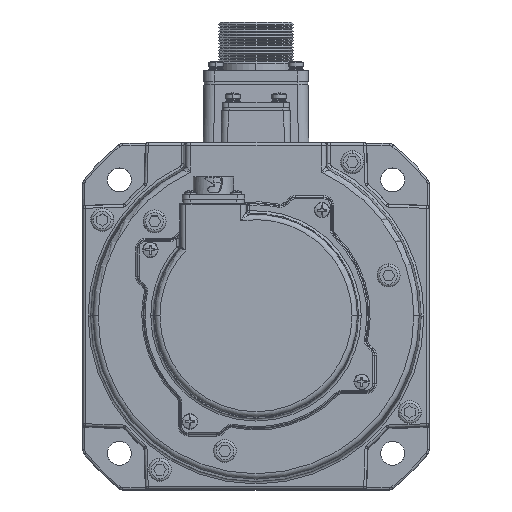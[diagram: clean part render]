
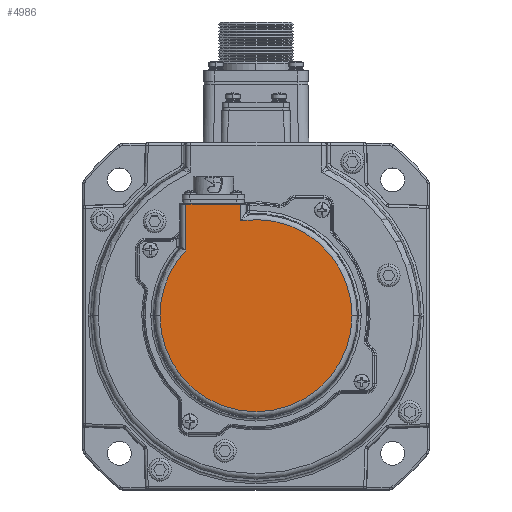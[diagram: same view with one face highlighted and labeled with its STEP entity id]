
A CAD part, top view. The second image highlights one B-rep face of the part: STEP entity #4986.
In plain terms, the highlighted planar face has unit normal (0, 0, 1).
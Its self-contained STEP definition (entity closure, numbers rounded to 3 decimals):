
#508 = EDGE_CURVE ( 'NONE', #105257, #60461, #37306, .T. ) ;
#2265 = DIRECTION ( 'NONE',  ( -1., 0., 0. ) ) ;
#4986 = ADVANCED_FACE ( 'NONE', ( #46255 ), #67852, .T. ) ;
#6481 = EDGE_CURVE ( 'NONE', #108684, #19166, #18332, .T. ) ;
#6916 = ORIENTED_EDGE ( 'NONE', *, *, #99080, .T. ) ;
#9707 = DIRECTION ( 'NONE',  ( -1., 0., 0. ) ) ;
#9770 = LINE ( 'NONE', #25796, #30596 ) ;
#10331 = DIRECTION ( 'NONE',  ( 0., 0., 1. ) ) ;
#10465 = CARTESIAN_POINT ( 'NONE',  ( -8.872, -56.273, -4.537 ) ) ;
#11478 = EDGE_CURVE ( 'NONE', #60461, #108684, #9770, .T. ) ;
#12075 = VECTOR ( 'NONE', #15134, 1000. ) ;
#12520 = ORIENTED_EDGE ( 'NONE', *, *, #41794, .T. ) ;
#12521 = CARTESIAN_POINT ( 'NONE',  ( -8.872, -14.523, -4.537 ) ) ;
#15134 = DIRECTION ( 'NONE',  ( 0., 1., 0. ) ) ;
#17428 = CARTESIAN_POINT ( 'NONE',  ( -44.907, -56.273, -4.537 ) ) ;
#18332 = CIRCLE ( 'NONE', #78939, 36.035 ) ;
#19166 = VERTEX_POINT ( 'NONE', #17428 ) ;
#22300 = ORIENTED_EDGE ( 'NONE', *, *, #11478, .T. ) ;
#23924 = EDGE_CURVE ( 'NONE', #84374, #55001, #81302, .T. ) ;
#25796 = CARTESIAN_POINT ( 'NONE',  ( -35.157, -56.273, -4.537 ) ) ;
#30596 = VECTOR ( 'NONE', #87744, 1000. ) ;
#36036 = CARTESIAN_POINT ( 'NONE',  ( -35.157, -14.523, -4.537 ) ) ;
#37146 = AXIS2_PLACEMENT_3D ( 'NONE', #73982, #60401, #60034 ) ;
#37306 = LINE ( 'NONE', #12521, #81644 ) ;
#38459 = DIRECTION ( 'NONE',  ( 0., 0., 1. ) ) ;
#41794 = EDGE_CURVE ( 'NONE', #19166, #84374, #83031, .T. ) ;
#46255 = FACE_OUTER_BOUND ( 'NONE', #80032, .T. ) ;
#48337 = ORIENTED_EDGE ( 'NONE', *, *, #6481, .T. ) ;
#53804 = CARTESIAN_POINT ( 'NONE',  ( -14.587, -14.523, -4.537 ) ) ;
#55001 = VERTEX_POINT ( 'NONE', #86475 ) ;
#55409 = DIRECTION ( 'NONE',  ( 0., 0., 1. ) ) ;
#56382 = LINE ( 'NONE', #77135, #12075 ) ;
#60034 = DIRECTION ( 'NONE',  ( -1., 0., 0. ) ) ;
#60401 = DIRECTION ( 'NONE',  ( 0., 0., 1. ) ) ;
#60461 = VERTEX_POINT ( 'NONE', #36036 ) ;
#61430 = CARTESIAN_POINT ( 'NONE',  ( -35.157, -31.624, -4.537 ) ) ;
#67852 = PLANE ( 'NONE',  #37146 ) ;
#73524 = ORIENTED_EDGE ( 'NONE', *, *, #508, .T. ) ;
#73982 = CARTESIAN_POINT ( 'NONE',  ( -8.872, -56.273, -4.537 ) ) ;
#77135 = CARTESIAN_POINT ( 'NONE',  ( -14.587, -56.273, -4.537 ) ) ;
#78939 = AXIS2_PLACEMENT_3D ( 'NONE', #10465, #10331, #9707 ) ;
#78971 = CARTESIAN_POINT ( 'NONE',  ( 27.163, -56.273, -4.537 ) ) ;
#80032 = EDGE_LOOP ( 'NONE', ( #6916, #73524, #22300, #48337, #12520, #95719 ) ) ;
#81302 = CIRCLE ( 'NONE', #111337, 36.035 ) ;
#81644 = VECTOR ( 'NONE', #111099, 1000. ) ;
#83031 = CIRCLE ( 'NONE', #98434, 36.035 ) ;
#84374 = VERTEX_POINT ( 'NONE', #78971 ) ;
#86475 = CARTESIAN_POINT ( 'NONE',  ( -14.587, -20.695, -4.537 ) ) ;
#87744 = DIRECTION ( 'NONE',  ( 0., -1., 0. ) ) ;
#91544 = CARTESIAN_POINT ( 'NONE',  ( -8.872, -56.273, -4.537 ) ) ;
#95719 = ORIENTED_EDGE ( 'NONE', *, *, #23924, .T. ) ;
#98434 = AXIS2_PLACEMENT_3D ( 'NONE', #91544, #38459, #100375 ) ;
#99080 = EDGE_CURVE ( 'NONE', #55001, #105257, #56382, .T. ) ;
#100375 = DIRECTION ( 'NONE',  ( -1., 0., 0. ) ) ;
#105257 = VERTEX_POINT ( 'NONE', #53804 ) ;
#108368 = CARTESIAN_POINT ( 'NONE',  ( -8.872, -56.273, -4.537 ) ) ;
#108684 = VERTEX_POINT ( 'NONE', #61430 ) ;
#111099 = DIRECTION ( 'NONE',  ( -1., 0., 0. ) ) ;
#111337 = AXIS2_PLACEMENT_3D ( 'NONE', #108368, #55409, #2265 ) ;
